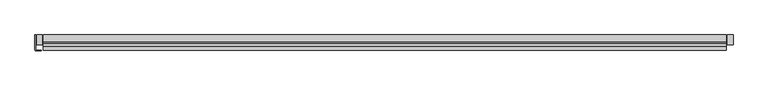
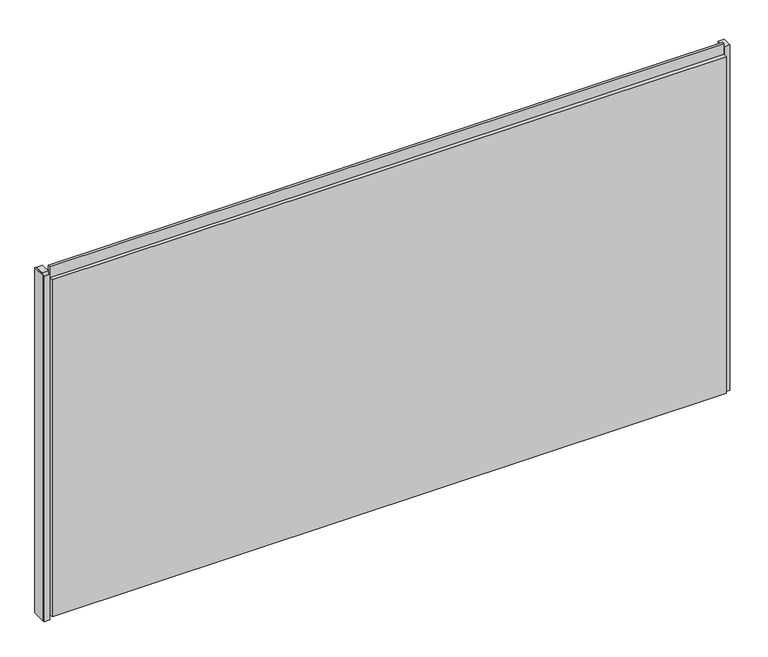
"""IFC4 building model written with IfcOpenShell, lengths in millimetres: plate geometry, Trimo_Qbiss Screen_Normal Panel-HORIZONTAL : HR - B-F."""

from ifc_helpers import new_model, si_unit, frame, origin, place, context, project, spatial, polyline, outline, extrude, source, transform, mapped, element, save


def plate_94aa80b7(model_context):
    return source(origin(), model_context, "Body", "SweptSolid", [
        extrude(outline(polyline([(-1119.0, 100.0), (-1119.0, 50.0), (-1101.5, 50.0), (-1101.5, 49.2), (-1119.8, 49.2), (-1119.8, 99.2), (-1120.8, 99.2), (-1120.8, 52.0), (-1121.6, 52.0), (-1121.6, 100.0), (-1119.0, 100.0)])), frame((0.0, 0.0, -1.0), z_axis=(0.0, 0.0, 1.0), x_axis=(1.0, 0.0, 0.0)), (0.0, 0.0, 1.0), 1200.0),
        extrude(outline(polyline([(-1097.0, 67.8978162), (-1116.0, 67.8978162), (-1116.0, 100.0), (-1097.0, 100.0), (-1097.0, 67.8978162)])), frame((0.0, 0.0, -1.0), z_axis=(0.0, 0.0, 1.0), x_axis=(1.0, 0.0, 0.0)), (0.0, 0.0, 1.0), 1200.0),
        extrude(outline(polyline([(1144.5, 67.8978162), (1125.5, 67.8978162), (1125.5, 100.0), (1144.5, 100.0), (1144.5, 67.8978162)])), frame((0.0, 0.0, -1.0), z_axis=(0.0, 0.0, 1.0), x_axis=(1.0, 0.0, 0.0)), (0.0, 0.0, 1.0), 1200.0),
        extrude(outline(polyline([(1122.5, 76.0), (1122.5, 71.0), (-1094.0, 71.0), (-1094.0, 76.0), (1122.5, 76.0)])), frame((0.0, 0.0, 1178.0), z_axis=(0.0, 0.0, 1.0), x_axis=(1.0, 0.0, 0.0)), (0.0, 0.0, 1.0), 21.0),
        extrude(outline(polyline([(71.0, 1177.0), (100.0, 1177.0), (100.0, 0.0), (72.0, 0.0), (72.0, 15.5), (62.0, 15.5), (62.0, 7.0), (50.0, 7.0), (50.0, 1177.0), (63.0, 1177.0), (63.0, 1214.5), (71.0, 1214.5), (71.0, 1177.0)])), frame((-1094.0, 0.0, 0.0), z_axis=(1.0, 0.0, 0.0), x_axis=(0.0, 1.0, 0.0)), (0.0, 0.0, 1.0), 2216.5),
    ])


if __name__ == "__main__":
    model = new_model("IFC4")
    model_context = context("Model", 3, world=origin())
    ifc_project = project(units=[si_unit("LENGTHUNIT", "METRE", prefix="MILLI")], contexts=[model_context])
    site = spatial("IfcSite", under=ifc_project)
    building = spatial("IfcBuilding", under=site)
    placement = place(None, origin())
    plate_shape = plate_94aa80b7(model_context)
    element("IfcPlate", 1, ObjectType="Trimo_Qbiss Screen_Normal Panel-HORIZONTAL : HR - B-F", at=placement, inside=building, context=model_context, shape_type="MappedRepresentation", body=[
        mapped(plate_shape, transform((0.0, 0.0, 0.0), x_axis=(1.0, 0.0, 0.0), y_axis=(0.0, 1.0, 0.0), z_axis=(0.0, 0.0, 1.0))),
    ])
    save(model, "model.ifc")
